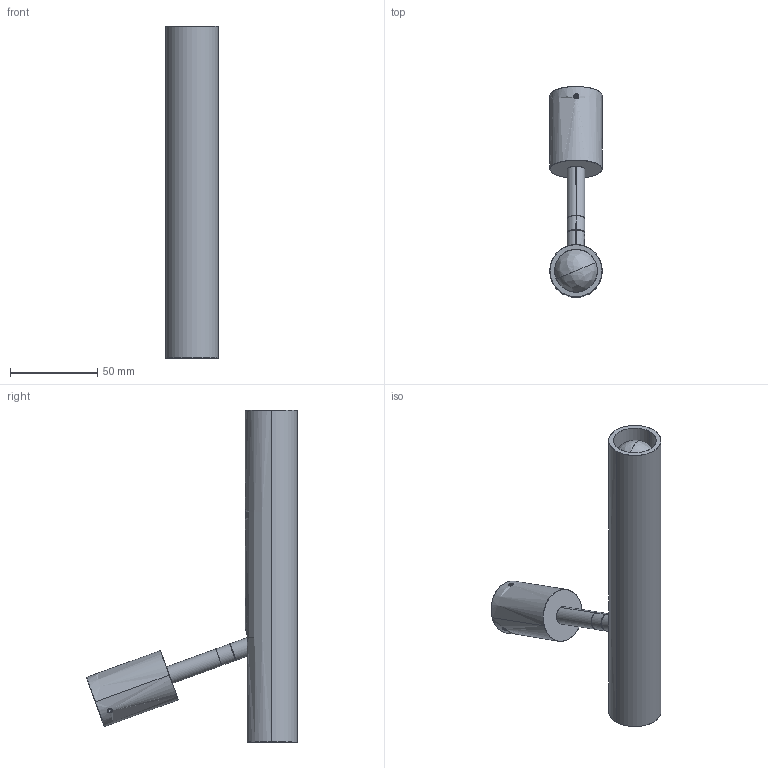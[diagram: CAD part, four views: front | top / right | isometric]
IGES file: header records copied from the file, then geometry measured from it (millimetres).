
Start section: SolidWorks IGES file using analytic representation for surfaces
Global section: file name: \\STORAGE\Tecnico Condiviso\15 PROGETTI SPECIALI\ARTICOLI VARI\APPLIQUE\SPOTOTTONELED-VENTURELLI\FADUDE30OTXXLED-3D INCLINATO.IGS; native system: SolidWorks 2019; preprocessor: SolidWorks 2019; author: tecnico3; date: 190523.171448; units: millimetre
Bounding box: 30 x 120.74 x 190 mm (x, y, z)
Surface area: 50602.6 mm2 (no closed solid volume)
Topology: 0 solids, 0 shells, 382 faces, 3968 edges, 3956 vertices
Faces by surface type: revolution 263, bspline 119
